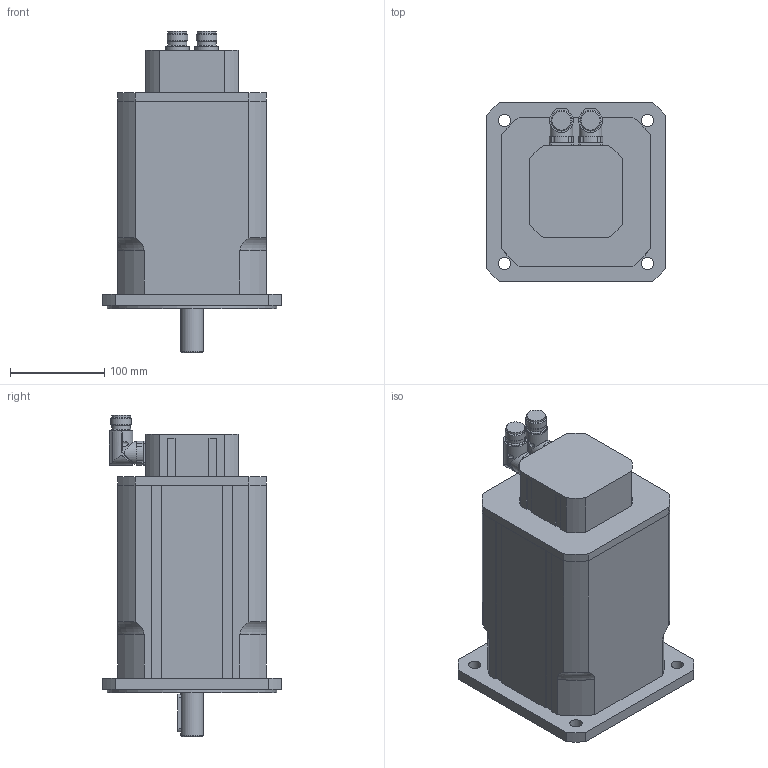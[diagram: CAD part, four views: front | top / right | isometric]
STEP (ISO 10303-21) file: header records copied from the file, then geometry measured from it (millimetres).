
FILE_DESCRIPTION(/* description */ ('Alibre Inc.'),/* implementation_level */ '2;1');
FILE_NAME(/* name */ 'export0',/* time_stamp */ '2011-12-09T12:24:26+01:00',/* author */ (''),/* organization */ (''),/* preprocessor_version */ 'ST-DEVELOPER v12',/* originating_system */ 'Alibre',/* authorisation */ '');
FILE_SCHEMA (('CONFIG_CONTROL_DESIGN'));
Length unit declared in the file: millimetre
Products named in the file (6): ID_1; ID_2
Bounding box: 190 x 190 x 341 mm (x, y, z)
Volume: 6083409.8 mm3; surface area: 321969.2 mm2
Topology: 6 solids, 6 shells, 226 faces, 575 edges, 375 vertices
Faces by surface type: plane 118, cylinder 92, cone 10, torus 4, bspline 2
Full cylindrical faces by diameter (mm): 2.7 x8, 6.647 x1, 13 x4, 20 x8, 22 x4, 24 x3, 25 x1, 180 x1
Entity records: 6168 total; most frequent: CARTESIAN_POINT 1560, ORIENTED_EDGE 798, DIRECTION 780, EDGE_CURVE 399, AXIS2_PLACEMENT_3D 323, VERTEX_POINT 279, VECTOR 227, LINE 227
